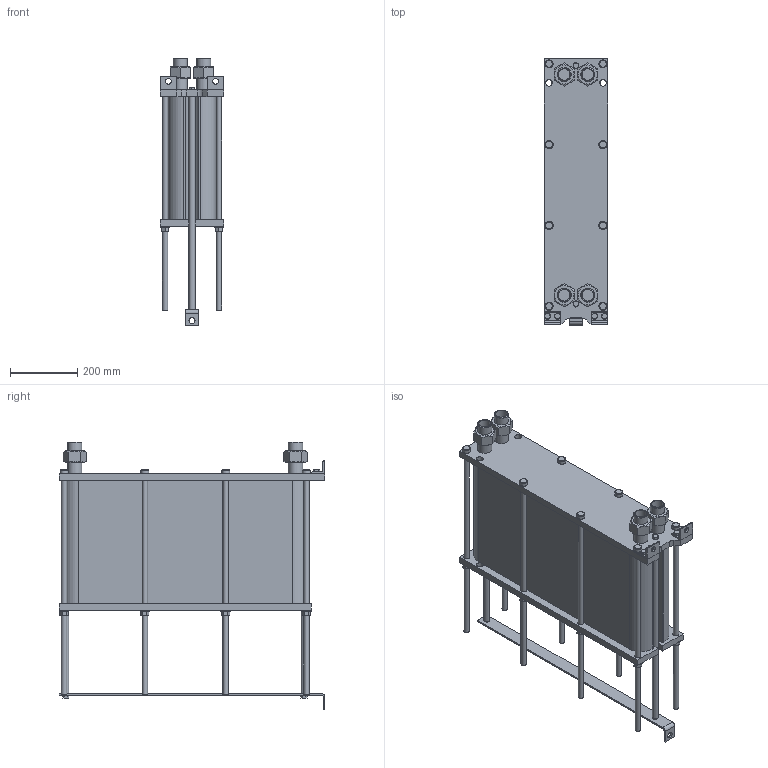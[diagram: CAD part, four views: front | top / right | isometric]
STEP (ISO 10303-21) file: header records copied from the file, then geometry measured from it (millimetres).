
FILE_DESCRIPTION(/* description */ (''),/* implementation_level */ '2;1');
FILE_NAME(/* name */ 'C:\Users\zhuro\Desktop\ENCO\TO\ЭН-008\ЭН-0,5-008-118-1.stp',/* time_stamp */ '2022-06-06T10:56:37+03:00',/* author */ ('zhuro'),/* organization */ (''),/* preprocessor_version */ 'ST-DEVELOPER v18.1',/* originating_system */ 'Autodesk Inventor 2022',/* authorisation */ '');
FILE_SCHEMA (('AUTOMOTIVE_DESIGN { 1 0 10303 214 3 1 1 }'));
Length unit declared in the file: millimetre
Products named in the file (1): ЭН-0,5-008-118-1
Bounding box: 190 x 790 x 795.4 mm (x, y, z)
Volume: 44335028 mm3; surface area: 2173783.7 mm2
Topology: 40 solids, 40 shells, 428 faces, 924 edges, 606 vertices
Faces by surface type: plane 273, cylinder 109, cone 40, torus 6
Full cylindrical faces by diameter (mm): 12 x6, 14 x2, 16 x20, 17 x8, 18 x19, 20 x5, 24 x8, 28 x8, 34.3 x8, 42.3 x8
Entity records: 15843 total; most frequent: CARTESIAN_POINT 5991, DIRECTION 1984, ORIENTED_EDGE 1848, EDGE_CURVE 924, AXIS2_PLACEMENT_3D 715, VERTEX_POINT 606, LINE 554, VECTOR 554
